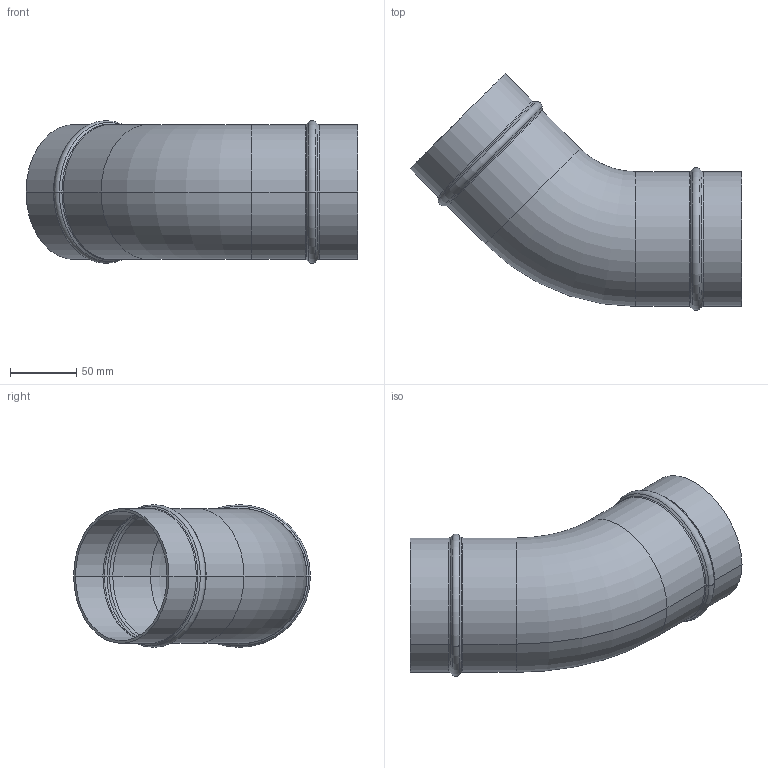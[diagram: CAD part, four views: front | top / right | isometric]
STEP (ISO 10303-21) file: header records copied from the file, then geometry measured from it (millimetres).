
FILE_DESCRIPTION(/* description */ (''),/* implementation_level */ '2;1');
FILE_NAME(/* name */ '8004_stp.stp',/* time_stamp */ '2025-06-20T11:30:48+08:00',/* author */ (''),/* organization */ (''),/* preprocessor_version */ 'ST-DEVELOPER v14',/* originating_system */ 'SIEMENS PLM Software NX 8.0',/* authorisation */ '');
FILE_SCHEMA (('AP203_CONFIGURATION_CONTROLLED_3D_DESIGN_OF_MECHANICAL_PARTS_AND_ASSEMBLIES_MIM_LF { 1 0 10303 403 2 1 2}'));
Length unit declared in the file: millimetre
Products named in the file (1): Admi0BECFFFE4xo0
Bounding box: 250.27 x 178.47 x 107.52 mm (x, y, z)
Volume: 157168.7 mm3; surface area: 158420.3 mm2
Topology: 1 solids, 1 shells, 62 faces, 132 edges, 72 vertices
Faces by surface type: torus 28, cylinder 16, cone 16, plane 2
Entity records: 1768 total; most frequent: DIRECTION 358, CARTESIAN_POINT 267, ORIENTED_EDGE 264, AXIS2_PLACEMENT_3D 163, EDGE_CURVE 132, CIRCLE 100, VERTEX_POINT 72, EDGE_LOOP 64
